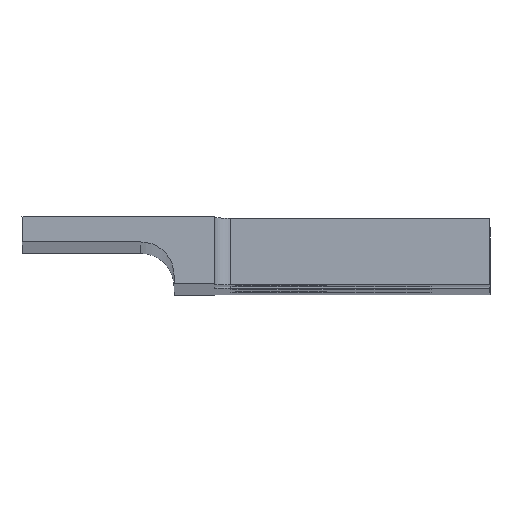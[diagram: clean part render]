
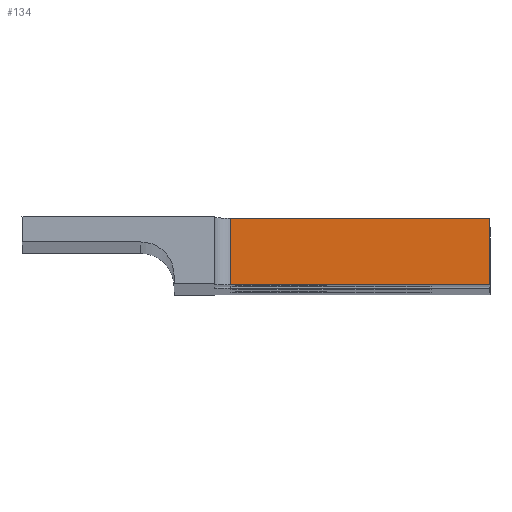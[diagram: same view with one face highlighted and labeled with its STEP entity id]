
A CAD part, top view. The second image highlights one B-rep face of the part: STEP entity #134.
In plain terms, the highlighted planar face has unit normal (0, 0, 1).
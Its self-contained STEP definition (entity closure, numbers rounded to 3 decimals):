
#134=ADVANCED_FACE('',(#181),#161,.F.);
#161=PLANE('',#795);
#181=FACE_OUTER_BOUND('',#230,.T.);
#230=EDGE_LOOP('',(#362,#363,#364,#365));
#362=ORIENTED_EDGE('',*,*,#539,.T.);
#363=ORIENTED_EDGE('',*,*,#602,.T.);
#364=ORIENTED_EDGE('',*,*,#567,.F.);
#365=ORIENTED_EDGE('',*,*,#601,.F.);
#467=VERTEX_POINT('',#1067);
#468=VERTEX_POINT('',#1069);
#492=VERTEX_POINT('',#1121);
#493=VERTEX_POINT('',#1123);
#539=EDGE_CURVE('',#468,#467,#637,.T.);
#567=EDGE_CURVE('',#492,#493,#651,.T.);
#601=EDGE_CURVE('',#468,#492,#662,.T.);
#602=EDGE_CURVE('',#467,#493,#663,.T.);
#637=LINE('',#1068,#696);
#651=LINE('',#1122,#710);
#662=LINE('',#1190,#721);
#663=LINE('',#1192,#722);
#696=VECTOR('',#847,1.);
#710=VECTOR('',#891,1.);
#721=VECTOR('',#966,1.);
#722=VECTOR('',#969,1.);
#795=AXIS2_PLACEMENT_3D('',#1193,#970,#971);
#847=DIRECTION('',(-1.,0.,0.));
#891=DIRECTION('',(-1.,0.,0.));
#966=DIRECTION('',(0.,-1.,0.));
#969=DIRECTION('',(0.,-1.,0.));
#970=DIRECTION('',(0.,0.,-1.));
#971=DIRECTION('',(0.,1.,0.));
#1067=CARTESIAN_POINT('',(-85.,20.1,798.65));
#1068=CARTESIAN_POINT('',(-76.5,20.1,798.65));
#1069=CARTESIAN_POINT('',(-77.25,20.1,798.65));
#1121=CARTESIAN_POINT('',(-77.25,18.1,798.65));
#1122=CARTESIAN_POINT('',(-76.5,18.1,798.65));
#1123=CARTESIAN_POINT('',(-85.,18.1,798.65));
#1190=CARTESIAN_POINT('',(-77.25,17.897,798.65));
#1192=CARTESIAN_POINT('',(-85.,17.897,798.65));
#1193=CARTESIAN_POINT('',(-76.5,17.897,798.65));
